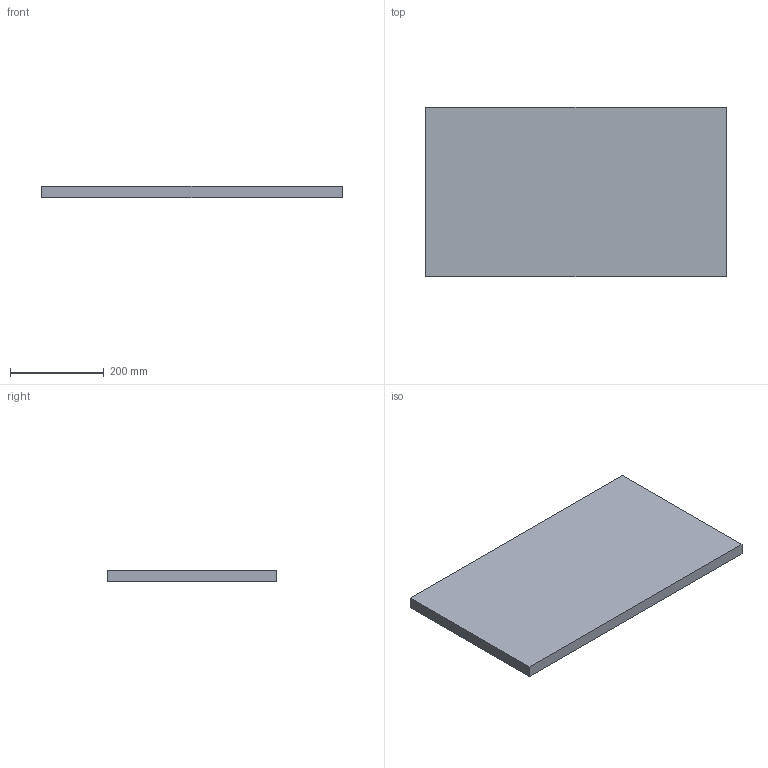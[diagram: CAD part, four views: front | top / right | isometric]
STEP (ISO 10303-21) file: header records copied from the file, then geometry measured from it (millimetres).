
FILE_DESCRIPTION(('Open CASCADE Model'),'2;1');
FILE_NAME('Open CASCADE Shape Model','2026-10-15T15:10:05',('Author'),( 'Open CASCADE'),'Open CASCADE STEP processor 8.0','Open CASCADE 8.0' ,'Unknown');
FILE_SCHEMA(('AUTOMOTIVE_DESIGN { 1 0 10303 214 1 1 1 1 }'));
Length unit declared in the file: millimetre
Products named in the file (1): TOPE_PLACA_REACCION_640x360x25_P05 156
Bounding box: 640 x 360 x 25 mm (x, y, z)
Volume: 5760000 mm3; surface area: 510800 mm2
Topology: 1 solids, 1 shells, 6 faces, 12 edges, 8 vertices
Faces by surface type: plane 6
Entity records: 322 total; most frequent: CARTESIAN_POINT 51, DIRECTION 50, LINE 36, VECTOR 36, ORIENTED_EDGE 24, PCURVE 24, DEFINITIONAL_REPRESENTATION 24, EDGE_CURVE 12
